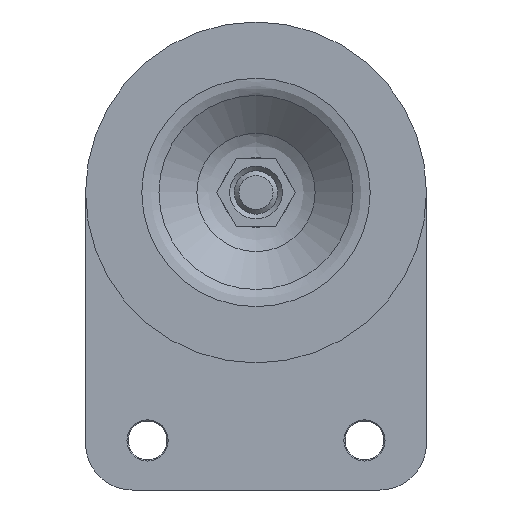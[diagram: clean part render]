
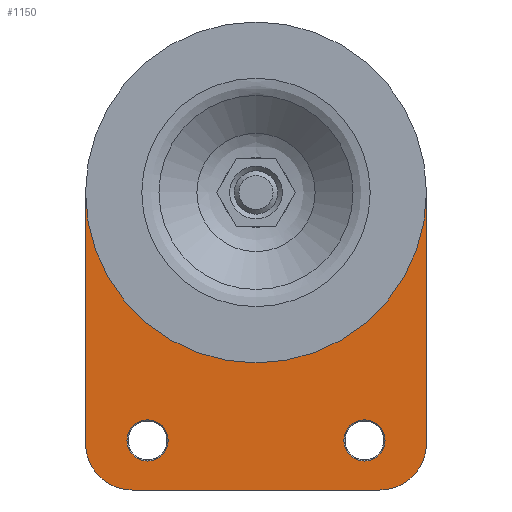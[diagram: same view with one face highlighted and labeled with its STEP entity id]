
A CAD part, left-side view. The second image highlights one B-rep face of the part: STEP entity #1150.
In plain terms, the highlighted planar face has unit normal (-1, 0, 0).
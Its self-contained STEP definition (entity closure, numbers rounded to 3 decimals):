
#575=CARTESIAN_POINT('',(-540.636,-543.109,-7.));
#576=VERTEX_POINT('',#575);
#594=CARTESIAN_POINT('',(-540.636,-433.109,-7.0));
#595=VERTEX_POINT('',#594);
#602=CARTESIAN_POINT('',(-540.636,-488.109,-7.0));
#603=DIRECTION('',(1.0,0.0,0.0));
#604=DIRECTION('',(0.0,1.0,0.));
#605=AXIS2_PLACEMENT_3D('',#602,#603,#604);
#606=CIRCLE('',#605,55.0);
#607=EDGE_CURVE('',#576,#595,#606,.T.);
#617=CARTESIAN_POINT('',(-540.636,-543.109,-88.));
#618=VERTEX_POINT('',#617);
#619=CARTESIAN_POINT('',(-540.636,-528.109,-103.));
#620=VERTEX_POINT('',#619);
#621=CARTESIAN_POINT('',(-540.636,-528.109,-88.));
#622=DIRECTION('',(1.0,0.0,0.0));
#623=DIRECTION('',(0.0,-1.0,0.0));
#624=AXIS2_PLACEMENT_3D('',#621,#622,#623);
#625=CIRCLE('',#624,15.0);
#626=EDGE_CURVE('',#618,#620,#625,.T.);
#659=CARTESIAN_POINT('',(-540.636,-448.109,-103.));
#660=VERTEX_POINT('',#659);
#661=CARTESIAN_POINT('',(-540.636,-433.109,-88.));
#662=VERTEX_POINT('',#661);
#663=CARTESIAN_POINT('',(-540.636,-448.109,-88.));
#664=DIRECTION('',(1.0,0.0,0.0));
#665=DIRECTION('',(0.0,0.0,-1.0));
#666=AXIS2_PLACEMENT_3D('',#663,#664,#665);
#667=CIRCLE('',#666,15.0);
#668=EDGE_CURVE('',#660,#662,#667,.T.);
#709=CARTESIAN_POINT('',(-540.636,-448.109,-103.));
#710=DIRECTION('',(0.0,-1.0,0.0));
#711=VECTOR('',#710,80.0);
#712=LINE('',#709,#711);
#713=EDGE_CURVE('',#660,#620,#712,.T.);
#723=CARTESIAN_POINT('',(-540.636,-543.109,-88.0));
#724=DIRECTION('',(0.0,0.0,1.0));
#725=VECTOR('',#724,81.0);
#726=LINE('',#723,#725);
#727=EDGE_CURVE('',#618,#576,#726,.T.);
#753=CARTESIAN_POINT('',(-540.636,-433.109,-7.0));
#754=DIRECTION('',(0.0,0.0,-1.0));
#755=VECTOR('',#754,81.0);
#756=LINE('',#753,#755);
#757=EDGE_CURVE('',#595,#662,#756,.T.);
#1097=CARTESIAN_POINT('',(-540.636,-422.109,-112.6));
#1098=DIRECTION('',(-1.0,0.0,0.0));
#1099=DIRECTION('',(0.0,-1.0,0.0));
#1100=AXIS2_PLACEMENT_3D('',#1097,#1098,#1099);
#1101=PLANE('',#1100);
#1102=ORIENTED_EDGE('',*,*,#607,.T.);
#1103=ORIENTED_EDGE('',*,*,#757,.T.);
#1104=ORIENTED_EDGE('',*,*,#668,.F.);
#1105=ORIENTED_EDGE('',*,*,#713,.T.);
#1106=ORIENTED_EDGE('',*,*,#626,.F.);
#1107=ORIENTED_EDGE('',*,*,#727,.T.);
#1108=EDGE_LOOP('',(#1102,#1103,#1104,#1105,#1106,#1107));
#1109=FACE_OUTER_BOUND('',#1108,.T.);
#1110=CARTESIAN_POINT('',(-540.636,-516.459,-87.));
#1111=VERTEX_POINT('',#1110);
#1112=CARTESIAN_POINT('',(-540.636,-529.759,-87.));
#1113=VERTEX_POINT('',#1112);
#1114=CARTESIAN_POINT('',(-540.636,-523.109,-87.));
#1115=DIRECTION('',(-1.0,0.0,0.0));
#1116=DIRECTION('',(0.0,-1.0,0.0));
#1117=AXIS2_PLACEMENT_3D('',#1114,#1115,#1116);
#1118=CIRCLE('',#1117,6.65);
#1119=EDGE_CURVE('',#1111,#1113,#1118,.T.);
#1120=ORIENTED_EDGE('',*,*,#1119,.F.);
#1121=CARTESIAN_POINT('',(-540.636,-523.109,-87.));
#1122=DIRECTION('',(-1.0,0.0,0.0));
#1123=DIRECTION('',(0.0,-1.0,0.0));
#1124=AXIS2_PLACEMENT_3D('',#1121,#1122,#1123);
#1125=CIRCLE('',#1124,6.65);
#1126=EDGE_CURVE('',#1113,#1111,#1125,.T.);
#1127=ORIENTED_EDGE('',*,*,#1126,.F.);
#1128=EDGE_LOOP('',(#1120,#1127));
#1129=FACE_BOUND('',#1128,.T.);
#1130=CARTESIAN_POINT('',(-540.636,-446.459,-87.0));
#1131=VERTEX_POINT('',#1130);
#1132=CARTESIAN_POINT('',(-540.636,-459.759,-87.0));
#1133=VERTEX_POINT('',#1132);
#1134=CARTESIAN_POINT('',(-540.636,-453.109,-87.0));
#1135=DIRECTION('',(-1.0,0.0,0.0));
#1136=DIRECTION('',(0.0,-1.0,0.0));
#1137=AXIS2_PLACEMENT_3D('',#1134,#1135,#1136);
#1138=CIRCLE('',#1137,6.65);
#1139=EDGE_CURVE('',#1131,#1133,#1138,.T.);
#1140=ORIENTED_EDGE('',*,*,#1139,.F.);
#1141=CARTESIAN_POINT('',(-540.636,-453.109,-87.0));
#1142=DIRECTION('',(-1.0,0.0,0.0));
#1143=DIRECTION('',(0.0,-1.0,0.0));
#1144=AXIS2_PLACEMENT_3D('',#1141,#1142,#1143);
#1145=CIRCLE('',#1144,6.65);
#1146=EDGE_CURVE('',#1133,#1131,#1145,.T.);
#1147=ORIENTED_EDGE('',*,*,#1146,.F.);
#1148=EDGE_LOOP('',(#1140,#1147));
#1149=FACE_BOUND('',#1148,.T.);
#1150=ADVANCED_FACE('',(#1109,#1129,#1149),#1101,.T.);
